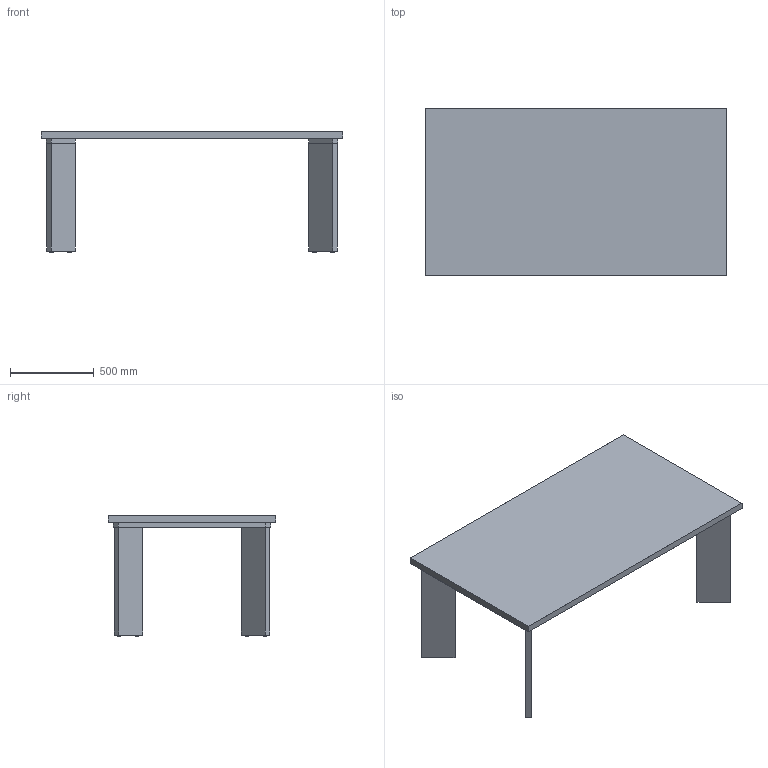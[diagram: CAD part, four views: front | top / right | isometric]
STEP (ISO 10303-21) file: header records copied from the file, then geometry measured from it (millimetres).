
FILE_DESCRIPTION(/* description */ (''),/* implementation_level */ '2;1');
FILE_NAME(/* name */ 'kinoshita_abord_at007-1800-1000',/* time_stamp */ '2025-08-25T18:40:12+09:00',/* author */ (''),/* organization */ (''),/* preprocessor_version */ 'ST-DEVELOPER v16.5',/* originating_system */ '',/* authorisation */ '');
FILE_SCHEMA (('AUTOMOTIVE_DESIGN'));
Length unit declared in the file: millimetre
Products named in the file (1): Document
Bounding box: 1800 x 1000 x 720.08 mm (x, y, z)
Volume: 101126034.8 mm3; surface area: 5821514 mm2
Topology: 15 solids, 15 shells, 238 faces, 528 edges, 224 vertices
Faces by surface type: plane 142, bspline 96
Entity records: 5831 total; most frequent: CARTESIAN_POINT 2624, ORIENTED_EDGE 864, EDGE_CURVE 432, B_SPLINE_CURVE_WITH_KNOTS 416, ADVANCED_FACE 238, FACE_OUTER_BOUND 238, EDGE_LOOP 238, VERTEX_POINT 224
